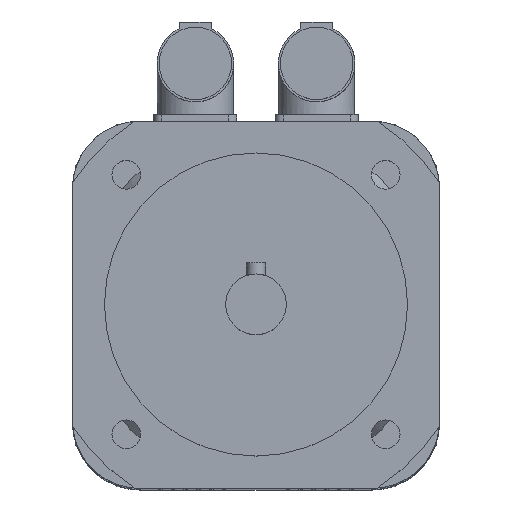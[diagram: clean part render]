
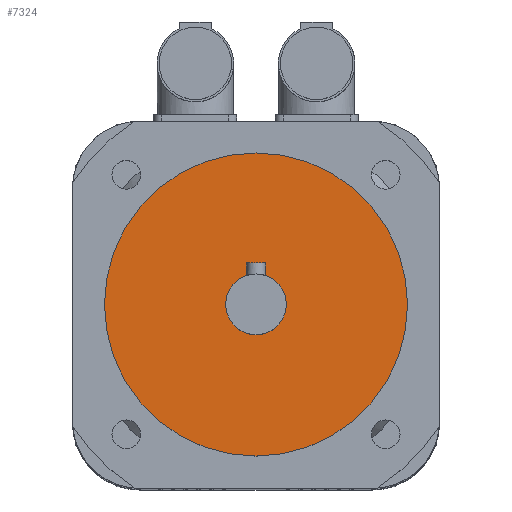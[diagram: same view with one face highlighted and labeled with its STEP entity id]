
A CAD part, top view. The second image highlights one B-rep face of the part: STEP entity #7324.
In plain terms, the highlighted planar face has unit normal (0, 0, 1).
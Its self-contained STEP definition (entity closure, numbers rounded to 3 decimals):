
#60=FACE_BOUND('',#993,.T.);
#151=CIRCLE('',#7810,9.5);
#152=CIRCLE('',#7812,47.5);
#524=FACE_OUTER_BOUND('',#992,.T.);
#992=EDGE_LOOP('',(#5019));
#993=EDGE_LOOP('',(#5020));
#3155=VERTEX_POINT('',#11148);
#3156=VERTEX_POINT('',#11151);
#3882=EDGE_CURVE('',#3155,#3155,#151,.T.);
#3883=EDGE_CURVE('',#3156,#3156,#152,.T.);
#5019=ORIENTED_EDGE('',*,*,#3883,.F.);
#5020=ORIENTED_EDGE('',*,*,#3882,.T.);
#6956=PLANE('',#7811);
#7324=ADVANCED_FACE('',(#524,#60),#6956,.T.);
#7810=AXIS2_PLACEMENT_3D('',#11149,#8756,#8757);
#7811=AXIS2_PLACEMENT_3D('',#11150,#8758,#8759);
#7812=AXIS2_PLACEMENT_3D('',#11152,#8760,#8761);
#8756=DIRECTION('center_axis',(0.,0.,-1.));
#8757=DIRECTION('ref_axis',(1.,0.,0.));
#8758=DIRECTION('center_axis',(0.,0.,1.));
#8759=DIRECTION('ref_axis',(1.,0.,0.));
#8760=DIRECTION('center_axis',(0.,0.,-1.));
#8761=DIRECTION('ref_axis',(1.,0.,0.));
#11148=CARTESIAN_POINT('',(0.,9.5,288.));
#11149=CARTESIAN_POINT('Origin',(0.,0.,288.));
#11150=CARTESIAN_POINT('Origin',(0.,47.5,288.));
#11151=CARTESIAN_POINT('',(0.,47.5,288.));
#11152=CARTESIAN_POINT('Origin',(0.,0.,288.));
